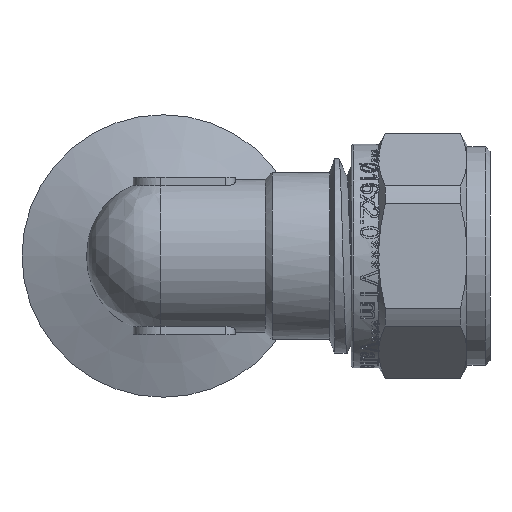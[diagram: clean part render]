
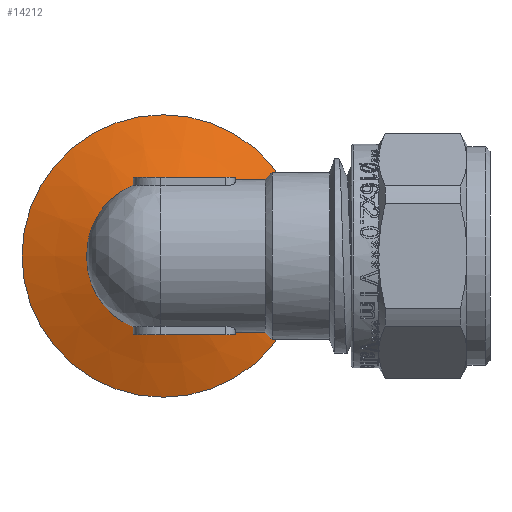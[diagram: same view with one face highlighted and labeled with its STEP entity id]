
A CAD part, front view. The second image highlights one B-rep face of the part: STEP entity #14212.
In plain terms, the highlighted conical face has half-angle 70 degrees and reference radius 11.75 mm.
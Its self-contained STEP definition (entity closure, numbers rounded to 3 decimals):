
#454=(
BOUNDED_CURVE()
B_SPLINE_CURVE(2,(#19815,#19816,#19817),.UNSPECIFIED.,.F.,.F.)
B_SPLINE_CURVE_WITH_KNOTS((3,3),(0.15,0.3),
 .UNSPECIFIED.)
CURVE()
GEOMETRIC_REPRESENTATION_ITEM()
RATIONAL_B_SPLINE_CURVE((1.003,1.003,1.))
REPRESENTATION_ITEM('')
);
#455=(
BOUNDED_CURVE()
B_SPLINE_CURVE(2,(#19819,#19820,#19821),.UNSPECIFIED.,.F.,.F.)
B_SPLINE_CURVE_WITH_KNOTS((3,3),(0.,0.15),.UNSPECIFIED.)
CURVE()
GEOMETRIC_REPRESENTATION_ITEM()
RATIONAL_B_SPLINE_CURVE((1.,1.003,1.003))
REPRESENTATION_ITEM('')
);
#457=(
BOUNDED_CURVE()
B_SPLINE_CURVE(2,(#19836,#19837,#19838),.UNSPECIFIED.,.F.,.F.)
B_SPLINE_CURVE_WITH_KNOTS((3,3),(0.,1.164),.UNSPECIFIED.)
CURVE()
GEOMETRIC_REPRESENTATION_ITEM()
RATIONAL_B_SPLINE_CURVE((1.,1.163,1.))
REPRESENTATION_ITEM('')
);
#458=(
BOUNDED_CURVE()
B_SPLINE_CURVE(2,(#19843,#19844,#19845),.UNSPECIFIED.,.F.,.F.)
B_SPLINE_CURVE_WITH_KNOTS((3,3),(1.164,2.327),
 .UNSPECIFIED.)
CURVE()
GEOMETRIC_REPRESENTATION_ITEM()
RATIONAL_B_SPLINE_CURVE((1.,1.163,1.))
REPRESENTATION_ITEM('')
);
#754=CONICAL_SURFACE('',#15069,11.75,1.222);
#802=CIRCLE('',#15070,15.25);
#803=CIRCLE('',#15071,15.25);
#804=CIRCLE('',#15072,8.25);
#1207=FACE_OUTER_BOUND('',#2014,.T.);
#2014=EDGE_LOOP('',(#9640,#9641,#9642,#9643,#9644,#9645,#9646,#9647,#9648));
#3708=LINE('',#19937,#4719);
#4719=VECTOR('',#16016,11.75);
#5762=VERTEX_POINT('',#19812);
#5763=VERTEX_POINT('',#19814);
#5764=VERTEX_POINT('',#19818);
#5769=VERTEX_POINT('',#19834);
#5771=VERTEX_POINT('',#19842);
#5788=VERTEX_POINT('',#19933);
#5789=VERTEX_POINT('',#19934);
#7300=EDGE_CURVE('',#5763,#5762,#454,.T.);
#7301=EDGE_CURVE('',#5764,#5763,#455,.T.);
#7308=EDGE_CURVE('',#5762,#5769,#457,.T.);
#7310=EDGE_CURVE('',#5771,#5764,#458,.T.);
#7331=EDGE_CURVE('',#5788,#5789,#802,.T.);
#7332=EDGE_CURVE('',#5789,#5788,#803,.T.);
#7333=EDGE_CURVE('',#5789,#5763,#3708,.T.);
#7334=EDGE_CURVE('',#5769,#5771,#804,.T.);
#9640=ORIENTED_EDGE('',*,*,#7331,.F.);
#9641=ORIENTED_EDGE('',*,*,#7332,.F.);
#9642=ORIENTED_EDGE('',*,*,#7333,.T.);
#9643=ORIENTED_EDGE('',*,*,#7300,.T.);
#9644=ORIENTED_EDGE('',*,*,#7308,.T.);
#9645=ORIENTED_EDGE('',*,*,#7334,.T.);
#9646=ORIENTED_EDGE('',*,*,#7310,.T.);
#9647=ORIENTED_EDGE('',*,*,#7301,.T.);
#9648=ORIENTED_EDGE('',*,*,#7333,.F.);
#14212=ADVANCED_FACE('',(#1207),#754,.T.);
#15069=AXIS2_PLACEMENT_3D('',#19932,#16010,#16011);
#15070=AXIS2_PLACEMENT_3D('',#19935,#16012,#16013);
#15071=AXIS2_PLACEMENT_3D('',#19936,#16014,#16015);
#15072=AXIS2_PLACEMENT_3D('',#19938,#16017,#16018);
#16010=DIRECTION('center_axis',(0.,1.,0.));
#16011=DIRECTION('ref_axis',(-1.,0.,0.));
#16012=DIRECTION('center_axis',(0.,1.,0.));
#16013=DIRECTION('ref_axis',(1.,0.,0.));
#16014=DIRECTION('center_axis',(0.,1.,0.));
#16015=DIRECTION('ref_axis',(1.,0.,0.));
#16016=DIRECTION('',(-0.94,-0.342,0.));
#16017=DIRECTION('center_axis',(0.,1.,0.));
#16018=DIRECTION('ref_axis',(1.,0.,0.));
#19812=CARTESIAN_POINT('',(14.,13.574,-1.5));
#19814=CARTESIAN_POINT('',(14.,13.545,0.));
#19815=CARTESIAN_POINT('Ctrl Pts',(14.,13.545,0.));
#19816=CARTESIAN_POINT('Ctrl Pts',(14.,13.545,-0.748));
#19817=CARTESIAN_POINT('Ctrl Pts',(14.,13.574,-1.5));
#19818=CARTESIAN_POINT('',(14.,13.574,1.5));
#19819=CARTESIAN_POINT('Ctrl Pts',(14.,13.574,1.5));
#19820=CARTESIAN_POINT('Ctrl Pts',(14.,13.545,0.748));
#19821=CARTESIAN_POINT('Ctrl Pts',(14.,13.545,0.));
#19834=CARTESIAN_POINT('',(4.094,11.452,-7.162));
#19836=CARTESIAN_POINT('Ctrl Pts',(14.,13.574,-1.5));
#19837=CARTESIAN_POINT('Ctrl Pts',(7.754,11.452,-5.07));
#19838=CARTESIAN_POINT('Ctrl Pts',(4.094,11.452,-7.162));
#19842=CARTESIAN_POINT('',(4.094,11.452,7.162));
#19843=CARTESIAN_POINT('Ctrl Pts',(4.094,11.452,7.162));
#19844=CARTESIAN_POINT('Ctrl Pts',(7.754,11.452,5.07));
#19845=CARTESIAN_POINT('Ctrl Pts',(14.,13.574,1.5));
#19932=CARTESIAN_POINT('Origin',(0.,12.726,0.));
#19933=CARTESIAN_POINT('',(-15.25,14.,0.));
#19934=CARTESIAN_POINT('',(15.25,14.,0.));
#19935=CARTESIAN_POINT('Origin',(0.,14.,0.));
#19936=CARTESIAN_POINT('Origin',(0.,14.,0.));
#19937=CARTESIAN_POINT('',(11.75,12.726,0.));
#19938=CARTESIAN_POINT('Origin',(0.,11.452,0.));
